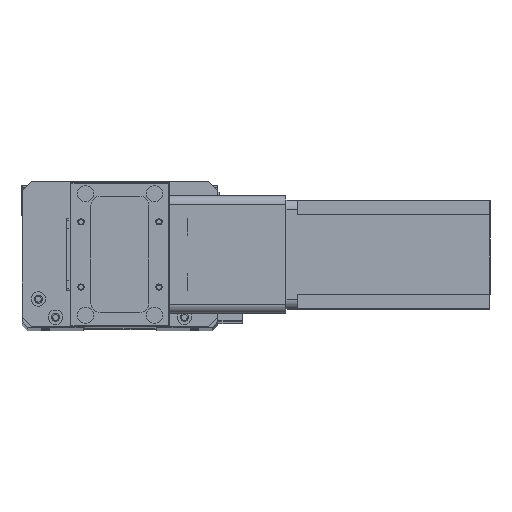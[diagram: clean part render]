
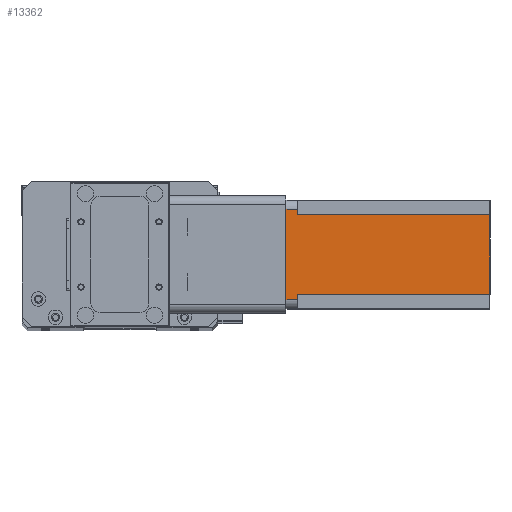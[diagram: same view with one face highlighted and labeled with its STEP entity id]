
A CAD part, top view. The second image highlights one B-rep face of the part: STEP entity #13362.
In plain terms, the highlighted planar face has unit normal (0, 0, 1) as drawn and (0, 1, 0) by its records, which use the part's own axes.
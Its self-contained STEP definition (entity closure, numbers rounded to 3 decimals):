
#349 = VERTEX_POINT ( 'NONE', #12555 ) ;
#462 = LINE ( 'NONE', #23041, #4707 ) ;
#1027 = VECTOR ( 'NONE', #18878, 1000. ) ;
#1676 = CARTESIAN_POINT ( 'NONE',  ( 8., 60., -6.5 ) ) ;
#2708 = ORIENTED_EDGE ( 'NONE', *, *, #10294, .F. ) ;
#2797 = VECTOR ( 'NONE', #8151, 1000. ) ;
#3204 = CARTESIAN_POINT ( 'NONE',  ( 52., 60., -112.5 ) ) ;
#3705 = CARTESIAN_POINT ( 'NONE',  ( 52., 60., -6.5 ) ) ;
#4005 = PLANE ( 'NONE',  #24869 ) ;
#4190 = CARTESIAN_POINT ( 'NONE',  ( 5., 60., 0. ) ) ;
#4213 = CARTESIAN_POINT ( 'NONE',  ( 0., 60., -112.5 ) ) ;
#4448 = EDGE_CURVE ( 'NONE', #4700, #349, #17098, .T. ) ;
#4700 = VERTEX_POINT ( 'NONE', #3204 ) ;
#4707 = VECTOR ( 'NONE', #18899, 1000. ) ;
#5004 = CARTESIAN_POINT ( 'NONE',  ( 52., 60., -6.5 ) ) ;
#5093 = VECTOR ( 'NONE', #5846, 1000. ) ;
#5412 = ORIENTED_EDGE ( 'NONE', *, *, #17896, .T. ) ;
#5646 = CARTESIAN_POINT ( 'NONE',  ( 5., 60., -6.5 ) ) ;
#5846 = DIRECTION ( 'NONE',  ( 0., 0., 1. ) ) ;
#5867 = ORIENTED_EDGE ( 'NONE', *, *, #7098, .F. ) ;
#5969 = CARTESIAN_POINT ( 'NONE',  ( 55., 60., -6.5 ) ) ;
#6162 = DIRECTION ( 'NONE',  ( 0., 0., 1. ) ) ;
#7098 = EDGE_CURVE ( 'NONE', #4700, #13901, #17649, .T. ) ;
#7133 = FACE_OUTER_BOUND ( 'NONE', #26062, .T. ) ;
#7950 = VERTEX_POINT ( 'NONE', #5646 ) ;
#7956 = ORIENTED_EDGE ( 'NONE', *, *, #4448, .T. ) ;
#8151 = DIRECTION ( 'NONE',  ( 0., 0., -1. ) ) ;
#8290 = LINE ( 'NONE', #1676, #24984 ) ;
#8618 = CARTESIAN_POINT ( 'NONE',  ( 55., 60., 0. ) ) ;
#8834 = DIRECTION ( 'NONE',  ( -1., 0., 0. ) ) ;
#9754 = VERTEX_POINT ( 'NONE', #8618 ) ;
#10010 = ORIENTED_EDGE ( 'NONE', *, *, #16060, .T. ) ;
#10294 = EDGE_CURVE ( 'NONE', #11062, #349, #462, .T. ) ;
#11019 = CARTESIAN_POINT ( 'NONE',  ( 8., 60., -6.5 ) ) ;
#11062 = VERTEX_POINT ( 'NONE', #11019 ) ;
#11389 = CARTESIAN_POINT ( 'NONE',  ( 52., 60., -112.5 ) ) ;
#12267 = EDGE_CURVE ( 'NONE', #9754, #27089, #20547, .T. ) ;
#12555 = CARTESIAN_POINT ( 'NONE',  ( 8., 60., -112.5 ) ) ;
#12640 = ORIENTED_EDGE ( 'NONE', *, *, #13870, .T. ) ;
#13362 = ADVANCED_FACE ( 'NONE', ( #7133 ), #4005, .T. ) ;
#13433 = DIRECTION ( 'NONE',  ( 1., 0., 0. ) ) ;
#13520 = VECTOR ( 'NONE', #13433, 1000. ) ;
#13870 = EDGE_CURVE ( 'NONE', #7950, #27089, #21164, .T. ) ;
#13901 = VERTEX_POINT ( 'NONE', #3705 ) ;
#14165 = DIRECTION ( 'NONE',  ( -1., 0., 0. ) ) ;
#14181 = LINE ( 'NONE', #5004, #13520 ) ;
#15792 = EDGE_CURVE ( 'NONE', #13901, #26983, #14181, .T. ) ;
#16060 = EDGE_CURVE ( 'NONE', #11062, #7950, #8290, .T. ) ;
#17098 = LINE ( 'NONE', #4213, #1027 ) ;
#17649 = LINE ( 'NONE', #11389, #23907 ) ;
#17896 = EDGE_CURVE ( 'NONE', #9754, #26983, #18863, .T. ) ;
#18358 = CARTESIAN_POINT ( 'NONE',  ( 5., 60., -112.5 ) ) ;
#18510 = ORIENTED_EDGE ( 'NONE', *, *, #15792, .F. ) ;
#18667 = DIRECTION ( 'NONE',  ( 0., 1., 0. ) ) ;
#18863 = LINE ( 'NONE', #20568, #2797 ) ;
#18878 = DIRECTION ( 'NONE',  ( -1., 0., 0. ) ) ;
#18899 = DIRECTION ( 'NONE',  ( 0., 0., -1. ) ) ;
#19672 = DIRECTION ( 'NONE',  ( 0., 0., 1. ) ) ;
#19809 = ORIENTED_EDGE ( 'NONE', *, *, #12267, .F. ) ;
#20547 = LINE ( 'NONE', #23469, #21877 ) ;
#20568 = CARTESIAN_POINT ( 'NONE',  ( 55., 60., -112.5 ) ) ;
#20693 = CARTESIAN_POINT ( 'NONE',  ( 0., 60., -112.5 ) ) ;
#21164 = LINE ( 'NONE', #18358, #5093 ) ;
#21877 = VECTOR ( 'NONE', #8834, 1000. ) ;
#23041 = CARTESIAN_POINT ( 'NONE',  ( 8., 60., -112.5 ) ) ;
#23469 = CARTESIAN_POINT ( 'NONE',  ( 0., 60., 0. ) ) ;
#23907 = VECTOR ( 'NONE', #19672, 1000. ) ;
#24869 = AXIS2_PLACEMENT_3D ( 'NONE', #20693, #18667, #6162 ) ;
#24984 = VECTOR ( 'NONE', #14165, 1000. ) ;
#26062 = EDGE_LOOP ( 'NONE', ( #19809, #5412, #18510, #5867, #7956, #2708, #10010, #12640 ) ) ;
#26983 = VERTEX_POINT ( 'NONE', #5969 ) ;
#27089 = VERTEX_POINT ( 'NONE', #4190 ) ;
